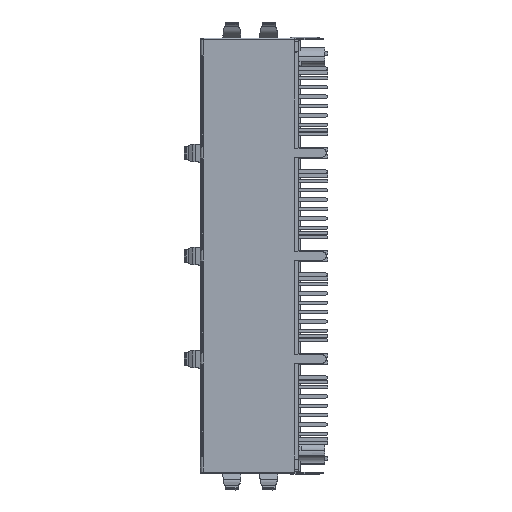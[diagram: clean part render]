
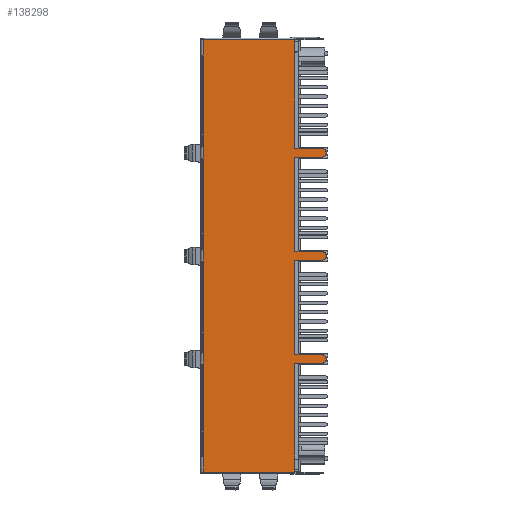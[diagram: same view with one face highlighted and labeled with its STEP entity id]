
A CAD part, top view. The second image highlights one B-rep face of the part: STEP entity #138298.
In plain terms, the highlighted planar face has unit normal (0, 0, 1).
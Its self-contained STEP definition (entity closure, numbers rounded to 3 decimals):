
#49059=DIRECTION('',(0.,1.,0.));
#49060=VECTOR('',#49059,12.);
#49061=CARTESIAN_POINT('',(-6.35,-26.955,10.55));
#49062=LINE('',#49061,#49060);
#49090=DIRECTION('',(0.,-1.,0.));
#49091=VECTOR('',#49090,12.77);
#49092=CARTESIAN_POINT('',(6.05,13.37,10.55));
#49093=LINE('',#49092,#49091);
#49094=DIRECTION('',(-1.,0.,0.));
#49095=VECTOR('',#49094,3.65);
#49096=CARTESIAN_POINT('',(9.7,13.37,10.55));
#49097=LINE('',#49096,#49095);
#49106=CARTESIAN_POINT('',(9.7,13.97,10.55));
#49107=DIRECTION('',(0.,0.,1.));
#49108=DIRECTION('',(0.,-1.,0.));
#49109=AXIS2_PLACEMENT_3D('',#49106,#49107,#49108);
#49111=CARTESIAN_POINT('',(9.7,0.,10.55));
#49112=DIRECTION('',(0.,0.,1.));
#49113=DIRECTION('',(0.,-1.,0.));
#49114=AXIS2_PLACEMENT_3D('',#49111,#49112,#49113);
#49116=CARTESIAN_POINT('',(9.7,-13.97,10.55));
#49117=DIRECTION('',(0.,0.,1.));
#49118=DIRECTION('',(0.,-1.,0.));
#49119=AXIS2_PLACEMENT_3D('',#49116,#49117,#49118);
#49121=DIRECTION('',(0.,-1.,0.));
#49122=VECTOR('',#49121,14.76);
#49123=CARTESIAN_POINT('',(6.05,29.33,10.55));
#49124=LINE('',#49123,#49122);
#49138=DIRECTION('',(-1.,0.,0.));
#49139=VECTOR('',#49138,12.4);
#49140=CARTESIAN_POINT('',(6.05,29.33,10.55));
#49141=LINE('',#49140,#49139);
#49250=DIRECTION('',(1.,0.,0.));
#49251=VECTOR('',#49250,3.65);
#49252=CARTESIAN_POINT('',(6.05,14.57,10.55));
#49253=LINE('',#49252,#49251);
#49266=DIRECTION('',(1.,0.,0.));
#49267=VECTOR('',#49266,3.65);
#49268=CARTESIAN_POINT('',(6.05,0.6,10.55));
#49269=LINE('',#49268,#49267);
#49286=DIRECTION('',(-1.,0.,0.));
#49287=VECTOR('',#49286,3.65);
#49288=CARTESIAN_POINT('',(9.7,-0.6,10.55));
#49289=LINE('',#49288,#49287);
#49302=DIRECTION('',(0.,-1.,0.));
#49303=VECTOR('',#49302,12.77);
#49304=CARTESIAN_POINT('',(6.05,-0.6,10.55));
#49305=LINE('',#49304,#49303);
#49306=DIRECTION('',(1.,0.,0.));
#49307=VECTOR('',#49306,3.65);
#49308=CARTESIAN_POINT('',(6.05,-13.37,10.55));
#49309=LINE('',#49308,#49307);
#49326=DIRECTION('',(-1.,0.,0.));
#49327=VECTOR('',#49326,3.65);
#49328=CARTESIAN_POINT('',(9.7,-14.57,10.55));
#49329=LINE('',#49328,#49327);
#49343=DIRECTION('',(0.,-1.,0.));
#49344=VECTOR('',#49343,14.76);
#49345=CARTESIAN_POINT('',(6.05,-14.57,10.55));
#49346=LINE('',#49345,#49344);
#49777=DIRECTION('',(0.,-1.,0.));
#49778=VECTOR('',#49777,1.97);
#49779=CARTESIAN_POINT('',(-6.35,-12.985,10.55));
#49780=LINE('',#49779,#49778);
#49803=DIRECTION('',(0.,1.,0.));
#49804=VECTOR('',#49803,12.);
#49805=CARTESIAN_POINT('',(-6.35,-12.985,10.55));
#49806=LINE('',#49805,#49804);
#49821=DIRECTION('',(0.,-1.,0.));
#49822=VECTOR('',#49821,1.97);
#49823=CARTESIAN_POINT('',(-6.35,0.985,10.55));
#49824=LINE('',#49823,#49822);
#49847=DIRECTION('',(0.,1.,0.));
#49848=VECTOR('',#49847,12.);
#49849=CARTESIAN_POINT('',(-6.35,0.985,10.55));
#49850=LINE('',#49849,#49848);
#49865=DIRECTION('',(0.,-1.,0.));
#49866=VECTOR('',#49865,1.97);
#49867=CARTESIAN_POINT('',(-6.35,14.955,10.55));
#49868=LINE('',#49867,#49866);
#49891=DIRECTION('',(0.,1.,0.));
#49892=VECTOR('',#49891,12.);
#49893=CARTESIAN_POINT('',(-6.35,14.955,10.55));
#49894=LINE('',#49893,#49892);
#49921=DIRECTION('',(0.,-1.,0.));
#49922=VECTOR('',#49921,2.375);
#49923=CARTESIAN_POINT('',(-6.35,29.33,10.55));
#49924=LINE('',#49923,#49922);
#49939=DIRECTION('',(0.,-1.,0.));
#49940=VECTOR('',#49939,2.375);
#49941=CARTESIAN_POINT('',(-6.35,-26.955,10.55));
#49942=LINE('',#49941,#49940);
#51169=DIRECTION('',(1.,0.,0.));
#51170=VECTOR('',#51169,12.4);
#51171=CARTESIAN_POINT('',(-6.35,-29.33,10.55));
#51172=LINE('',#51171,#51170);
#59387=CARTESIAN_POINT('',(-6.35,29.33,10.55));
#59388=VERTEX_POINT('',#59387);
#59391=CARTESIAN_POINT('',(-6.35,26.955,10.55));
#59392=VERTEX_POINT('',#59391);
#59393=CARTESIAN_POINT('',(6.05,29.33,10.55));
#59394=CARTESIAN_POINT('',(6.05,14.57,10.55));
#59395=VERTEX_POINT('',#59393);
#59396=VERTEX_POINT('',#59394);
#59397=CARTESIAN_POINT('',(9.7,14.57,10.55));
#59398=VERTEX_POINT('',#59397);
#59399=CARTESIAN_POINT('',(9.7,13.37,10.55));
#59400=VERTEX_POINT('',#59399);
#59401=CARTESIAN_POINT('',(6.05,13.37,10.55));
#59402=VERTEX_POINT('',#59401);
#59403=CARTESIAN_POINT('',(6.05,0.6,10.55));
#59404=VERTEX_POINT('',#59403);
#59405=CARTESIAN_POINT('',(9.7,0.6,10.55));
#59406=VERTEX_POINT('',#59405);
#59407=CARTESIAN_POINT('',(9.7,-0.6,10.55));
#59408=VERTEX_POINT('',#59407);
#59409=CARTESIAN_POINT('',(6.05,-0.6,10.55));
#59410=VERTEX_POINT('',#59409);
#59411=CARTESIAN_POINT('',(6.05,-13.37,10.55));
#59412=VERTEX_POINT('',#59411);
#59413=CARTESIAN_POINT('',(9.7,-13.37,10.55));
#59414=VERTEX_POINT('',#59413);
#59415=CARTESIAN_POINT('',(9.7,-14.57,10.55));
#59416=VERTEX_POINT('',#59415);
#59417=CARTESIAN_POINT('',(6.05,-14.57,10.55));
#59418=VERTEX_POINT('',#59417);
#59419=CARTESIAN_POINT('',(6.05,-29.33,10.55));
#59420=VERTEX_POINT('',#59419);
#59421=CARTESIAN_POINT('',(-6.35,-29.33,10.55));
#59422=VERTEX_POINT('',#59421);
#59423=CARTESIAN_POINT('',(-6.35,-26.955,10.55));
#59424=VERTEX_POINT('',#59423);
#59425=CARTESIAN_POINT('',(-6.35,-14.955,10.55));
#59426=VERTEX_POINT('',#59425);
#59427=CARTESIAN_POINT('',(-6.35,-12.985,10.55));
#59428=VERTEX_POINT('',#59427);
#59429=CARTESIAN_POINT('',(-6.35,-0.985,10.55));
#59430=VERTEX_POINT('',#59429);
#59431=CARTESIAN_POINT('',(-6.35,0.985,10.55));
#59432=VERTEX_POINT('',#59431);
#59433=CARTESIAN_POINT('',(-6.35,12.985,10.55));
#59434=VERTEX_POINT('',#59433);
#59435=CARTESIAN_POINT('',(-6.35,14.955,10.55));
#59436=VERTEX_POINT('',#59435);
#138246=CARTESIAN_POINT('',(1.976,0.,10.55));
#138247=DIRECTION('',(0.,0.,1.));
#138248=DIRECTION('',(0.,-1.,0.));
#138249=AXIS2_PLACEMENT_3D('',#138246,#138247,#138248);
#138250=PLANE('',#138249);
#138252=ORIENTED_EDGE('',*,*,#138251,.T.);
#138254=ORIENTED_EDGE('',*,*,#138253,.T.);
#138256=ORIENTED_EDGE('',*,*,#138255,.F.);
#138257=ORIENTED_EDGE('',*,*,#138237,.T.);
#138258=ORIENTED_EDGE('',*,*,#138227,.T.);
#138260=ORIENTED_EDGE('',*,*,#138259,.T.);
#138262=ORIENTED_EDGE('',*,*,#138261,.F.);
#138264=ORIENTED_EDGE('',*,*,#138263,.T.);
#138266=ORIENTED_EDGE('',*,*,#138265,.T.);
#138268=ORIENTED_EDGE('',*,*,#138267,.T.);
#138270=ORIENTED_EDGE('',*,*,#138269,.F.);
#138272=ORIENTED_EDGE('',*,*,#138271,.T.);
#138274=ORIENTED_EDGE('',*,*,#138273,.T.);
#138276=ORIENTED_EDGE('',*,*,#138275,.F.);
#138278=ORIENTED_EDGE('',*,*,#138277,.F.);
#138279=ORIENTED_EDGE('',*,*,#138158,.T.);
#138281=ORIENTED_EDGE('',*,*,#138280,.F.);
#138283=ORIENTED_EDGE('',*,*,#138282,.T.);
#138285=ORIENTED_EDGE('',*,*,#138284,.F.);
#138287=ORIENTED_EDGE('',*,*,#138286,.T.);
#138289=ORIENTED_EDGE('',*,*,#138288,.F.);
#138291=ORIENTED_EDGE('',*,*,#138290,.T.);
#138293=ORIENTED_EDGE('',*,*,#138292,.F.);
#138295=ORIENTED_EDGE('',*,*,#138294,.F.);
#138296=EDGE_LOOP('',(#138252,#138254,#138256,#138257,#138258,#138260,#138262,
#138264,#138266,#138268,#138270,#138272,#138274,#138276,#138278,#138279,#138281,
#138283,#138285,#138287,#138289,#138291,#138293,#138295));
#138297=FACE_OUTER_BOUND('',#138296,.F.);
#138298=ADVANCED_FACE('',(#138297),#138250,.T.);
#49110=CIRCLE('',#49109,0.6);
#49115=CIRCLE('',#49114,0.6);
#49120=CIRCLE('',#49119,0.6);
#138158=EDGE_CURVE('',#59424,#59426,#49062,.T.);
#138227=EDGE_CURVE('',#59402,#59404,#49093,.T.);
#138237=EDGE_CURVE('',#59400,#59402,#49097,.T.);
#138251=EDGE_CURVE('',#59395,#59396,#49124,.T.);
#138253=EDGE_CURVE('',#59396,#59398,#49253,.T.);
#138255=EDGE_CURVE('',#59400,#59398,#49110,.T.);
#138259=EDGE_CURVE('',#59404,#59406,#49269,.T.);
#138261=EDGE_CURVE('',#59408,#59406,#49115,.T.);
#138263=EDGE_CURVE('',#59408,#59410,#49289,.T.);
#138265=EDGE_CURVE('',#59410,#59412,#49305,.T.);
#138267=EDGE_CURVE('',#59412,#59414,#49309,.T.);
#138269=EDGE_CURVE('',#59416,#59414,#49120,.T.);
#138271=EDGE_CURVE('',#59416,#59418,#49329,.T.);
#138273=EDGE_CURVE('',#59418,#59420,#49346,.T.);
#138275=EDGE_CURVE('',#59422,#59420,#51172,.T.);
#138277=EDGE_CURVE('',#59424,#59422,#49942,.T.);
#138280=EDGE_CURVE('',#59428,#59426,#49780,.T.);
#138282=EDGE_CURVE('',#59428,#59430,#49806,.T.);
#138284=EDGE_CURVE('',#59432,#59430,#49824,.T.);
#138286=EDGE_CURVE('',#59432,#59434,#49850,.T.);
#138288=EDGE_CURVE('',#59436,#59434,#49868,.T.);
#138290=EDGE_CURVE('',#59436,#59392,#49894,.T.);
#138292=EDGE_CURVE('',#59388,#59392,#49924,.T.);
#138294=EDGE_CURVE('',#59395,#59388,#49141,.T.);
